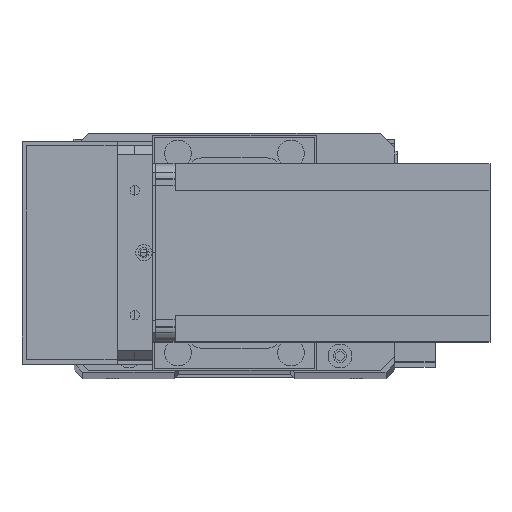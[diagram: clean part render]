
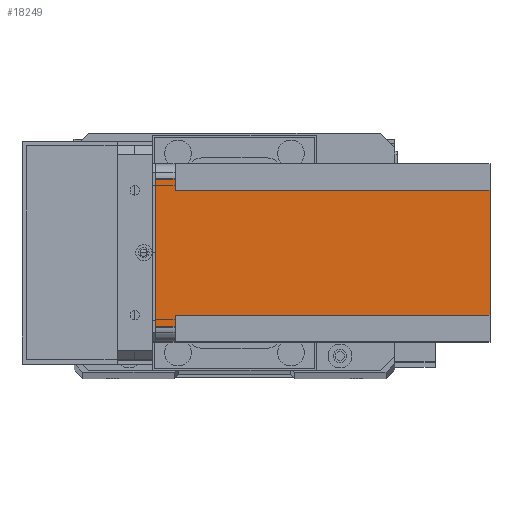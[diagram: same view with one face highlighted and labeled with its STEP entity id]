
A CAD part, top view. The second image highlights one B-rep face of the part: STEP entity #18249.
In plain terms, the highlighted planar face has unit normal (0, 0, 1) as drawn and (1, 0, 0) by its records, which use the part's own axes.
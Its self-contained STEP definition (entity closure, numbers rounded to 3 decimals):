
#743 = VERTEX_POINT ( 'NONE', #25073 ) ;
#984 = LINE ( 'NONE', #12507, #18589 ) ;
#2141 = ORIENTED_EDGE ( 'NONE', *, *, #4069, .F. ) ;
#2143 = LINE ( 'NONE', #24610, #14124 ) ;
#2288 = ORIENTED_EDGE ( 'NONE', *, *, #16131, .T. ) ;
#2484 = CARTESIAN_POINT ( 'NONE',  ( 60., 9., -6.5 ) ) ;
#2679 = LINE ( 'NONE', #25351, #7546 ) ;
#3016 = CARTESIAN_POINT ( 'NONE',  ( 60., 9., -112.5 ) ) ;
#3252 = EDGE_CURVE ( 'NONE', #29279, #6491, #2143, .T. ) ;
#3759 = EDGE_LOOP ( 'NONE', ( #2141, #21455, #24225, #2288, #27957, #9086, #27879, #16089 ) ) ;
#4069 = EDGE_CURVE ( 'NONE', #13424, #20118, #984, .T. ) ;
#5417 = DIRECTION ( 'NONE',  ( 1., 0., 0. ) ) ;
#5797 = EDGE_CURVE ( 'NONE', #743, #16172, #14303, .T. ) ;
#6023 = CARTESIAN_POINT ( 'NONE',  ( 60., 55., -6.5 ) ) ;
#6068 = EDGE_CURVE ( 'NONE', #20118, #15867, #2679, .T. ) ;
#6209 = LINE ( 'NONE', #19147, #11795 ) ;
#6491 = VERTEX_POINT ( 'NONE', #10717 ) ;
#7118 = CARTESIAN_POINT ( 'NONE',  ( 60., 55., -112.5 ) ) ;
#7397 = VERTEX_POINT ( 'NONE', #28478 ) ;
#7546 = VECTOR ( 'NONE', #22982, 1000. ) ;
#7954 = VECTOR ( 'NONE', #10231, 1000. ) ;
#8515 = EDGE_CURVE ( 'NONE', #13424, #6491, #30521, .T. ) ;
#8811 = CARTESIAN_POINT ( 'NONE',  ( 60., 5., 0. ) ) ;
#9086 = ORIENTED_EDGE ( 'NONE', *, *, #5797, .F. ) ;
#10231 = DIRECTION ( 'NONE',  ( 0., 0., 1. ) ) ;
#10717 = CARTESIAN_POINT ( 'NONE',  ( 60., 55., 0. ) ) ;
#10964 = FACE_OUTER_BOUND ( 'NONE', #3759, .T. ) ;
#11485 = VECTOR ( 'NONE', #21370, 1000. ) ;
#11795 = VECTOR ( 'NONE', #30988, 1000. ) ;
#12478 = DIRECTION ( 'NONE',  ( 0., -1., 0. ) ) ;
#12505 = PLANE ( 'NONE',  #21137 ) ;
#12507 = CARTESIAN_POINT ( 'NONE',  ( 60., 60., -6.5 ) ) ;
#13292 = CARTESIAN_POINT ( 'NONE',  ( 60., 51., -112.5 ) ) ;
#13424 = VERTEX_POINT ( 'NONE', #6023 ) ;
#14124 = VECTOR ( 'NONE', #24600, 1000. ) ;
#14303 = LINE ( 'NONE', #3016, #7954 ) ;
#15867 = VERTEX_POINT ( 'NONE', #13292 ) ;
#16089 = ORIENTED_EDGE ( 'NONE', *, *, #6068, .F. ) ;
#16092 = DIRECTION ( 'NONE',  ( 0., -1., 0. ) ) ;
#16131 = EDGE_CURVE ( 'NONE', #29279, #7397, #6209, .T. ) ;
#16172 = VERTEX_POINT ( 'NONE', #2484 ) ;
#16628 = EDGE_CURVE ( 'NONE', #743, #15867, #22704, .T. ) ;
#17504 = LINE ( 'NONE', #20810, #30141 ) ;
#18249 = ADVANCED_FACE ( 'NONE', ( #10964 ), #12505, .T. ) ;
#18589 = VECTOR ( 'NONE', #12478, 1000. ) ;
#18641 = CARTESIAN_POINT ( 'NONE',  ( 60., 51., -6.5 ) ) ;
#19147 = CARTESIAN_POINT ( 'NONE',  ( 60., 5., -112.5 ) ) ;
#20118 = VERTEX_POINT ( 'NONE', #18641 ) ;
#20590 = EDGE_CURVE ( 'NONE', #16172, #7397, #17504, .T. ) ;
#20810 = CARTESIAN_POINT ( 'NONE',  ( 60., 0., -6.5 ) ) ;
#21137 = AXIS2_PLACEMENT_3D ( 'NONE', #26798, #5417, #22164 ) ;
#21370 = DIRECTION ( 'NONE',  ( 0., 0., 1. ) ) ;
#21455 = ORIENTED_EDGE ( 'NONE', *, *, #8515, .T. ) ;
#21954 = VECTOR ( 'NONE', #22767, 1000. ) ;
#22164 = DIRECTION ( 'NONE',  ( 0., 1., 0. ) ) ;
#22704 = LINE ( 'NONE', #29792, #21954 ) ;
#22767 = DIRECTION ( 'NONE',  ( 0., 1., 0. ) ) ;
#22982 = DIRECTION ( 'NONE',  ( 0., 0., -1. ) ) ;
#24225 = ORIENTED_EDGE ( 'NONE', *, *, #3252, .F. ) ;
#24600 = DIRECTION ( 'NONE',  ( 0., 1., 0. ) ) ;
#24610 = CARTESIAN_POINT ( 'NONE',  ( 60., 0., 0. ) ) ;
#25073 = CARTESIAN_POINT ( 'NONE',  ( 60., 9., -112.5 ) ) ;
#25351 = CARTESIAN_POINT ( 'NONE',  ( 60., 51., -112.5 ) ) ;
#26798 = CARTESIAN_POINT ( 'NONE',  ( 60., 0., -112.5 ) ) ;
#27879 = ORIENTED_EDGE ( 'NONE', *, *, #16628, .T. ) ;
#27957 = ORIENTED_EDGE ( 'NONE', *, *, #20590, .F. ) ;
#28478 = CARTESIAN_POINT ( 'NONE',  ( 60., 5., -6.5 ) ) ;
#29279 = VERTEX_POINT ( 'NONE', #8811 ) ;
#29792 = CARTESIAN_POINT ( 'NONE',  ( 60., 0., -112.5 ) ) ;
#30141 = VECTOR ( 'NONE', #16092, 1000. ) ;
#30521 = LINE ( 'NONE', #7118, #11485 ) ;
#30988 = DIRECTION ( 'NONE',  ( 0., 0., -1. ) ) ;
